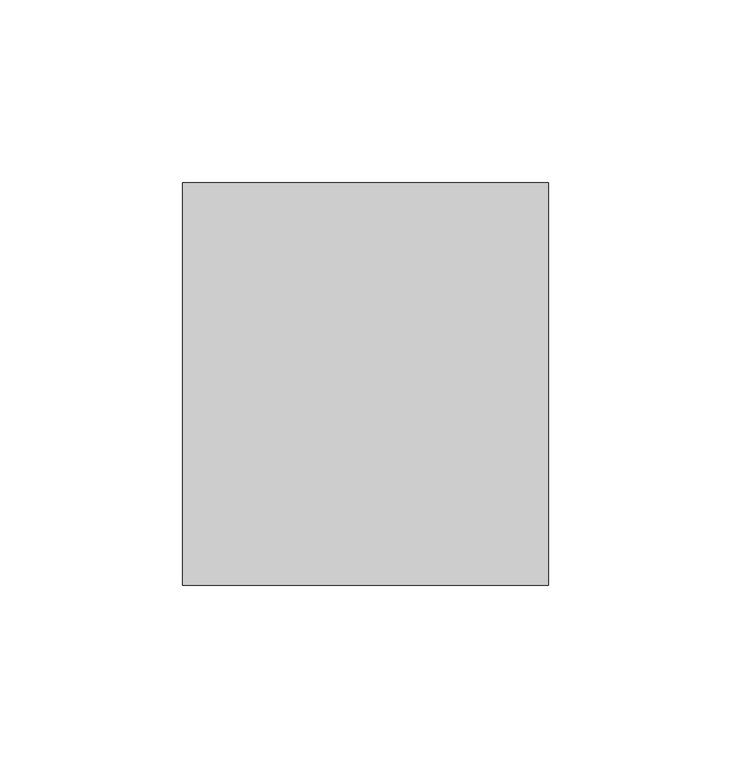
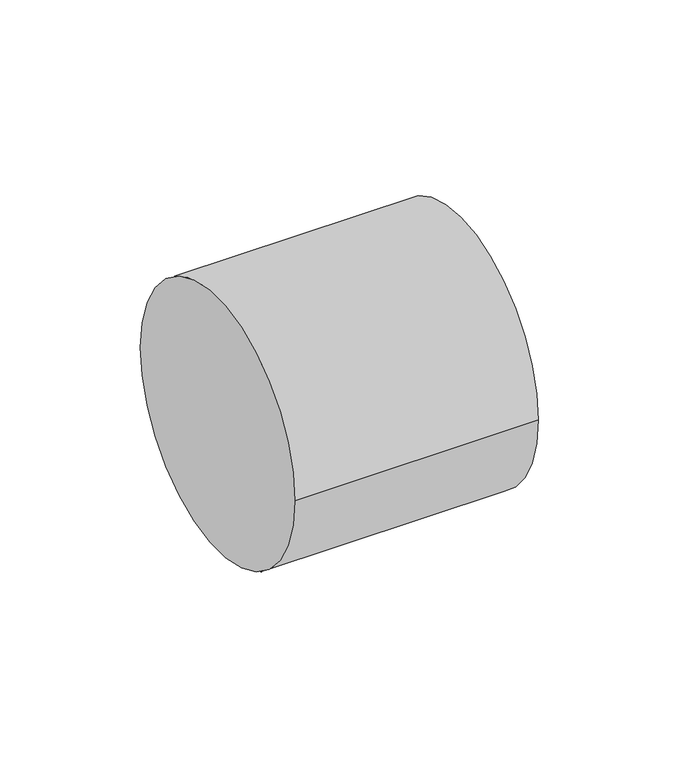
"""IFC4 building model written with IfcOpenShell, lengths in millimetres: pipe segment geometry, UN_PIF_PP pipe adapter_SH_PipeLife : var. DN/OD (max. ø125, nested)."""

import ifcopenshell
import ifcopenshell.guid

model = None  # the IFC model being written
_history = None  # IfcOwnerHistory: only IFC2X3 demands one
_inside = {}  # id of a spatial element -> (the spatial element, [elements in it])
_under = {}  # id of a project, library or spatial element -> (it, [spatial elements below it])
_declared = {}  # id of a project -> (the project, [libraries it declares])
_typed = {}  # id of a type object -> (the type object, [elements of that type])
_made_of = {}  # id of a material, layer set ... -> (it, [elements and type objects made of it])


def new_model(schema):
    """Start an empty IFC model of exactly this schema.

    Asked for "IFC4X3", IfcOpenShell would pick the latest addendum, in which some entities
    have other attributes; the version numbers below select the first issue.
    IFC2X3 requires an IfcOwnerHistory on every rooted entity: one is made here for all.
    """
    global model, _history
    if schema == "IFC4X3":
        model = ifcopenshell.file(schema_version=(4, 3, 0, 0))
    else:
        model = ifcopenshell.file(schema=schema)
    _inside.clear()
    _under.clear()
    _declared.clear()
    _typed.clear()
    _made_of.clear()
    _history = None
    if model.schema == "IFC2X3":
        org = make("IfcOrganization", Name="unknown")
        user = make(
            "IfcPersonAndOrganization",
            ThePerson=make("IfcPerson", FamilyName="unknown"),
            TheOrganization=org,
        )
        app = make(
            "IfcApplication",
            ApplicationDeveloper=org,
            Version="unknown",
            ApplicationFullName="unknown",
            ApplicationIdentifier="unknown",
        )
        _history = make(
            "IfcOwnerHistory",
            OwningUser=user,
            OwningApplication=app,
            ChangeAction="ADDED",
            CreationDate=0,
        )
    return model


def make(cls, **values):
    """One entity of the class cls with the attributes given. An attribute that is None is left unset."""
    return model.create_entity(
        cls, **{name: value for name, value in values.items() if value is not None}
    )


def rooted(cls, **values):
    """An entity with a GlobalId (a new one), such as an element, a storey or a relation."""
    return make(cls, GlobalId=ifcopenshell.guid.new(), OwnerHistory=_history, **values)


def si_unit(unit_type, name, prefix=None):
    """IfcSIUnit, for example si_unit("LENGTHUNIT", "METRE", prefix="MILLI")."""
    return make("IfcSIUnit", UnitType=unit_type, Prefix=prefix, Name=name)


def assignment(units):
    """IfcUnitAssignment: the units of a project."""
    return None if units is None else make("IfcUnitAssignment", Units=units)


def point(xyz):
    """IfcCartesianPoint."""
    return None if xyz is None else make("IfcCartesianPoint", Coordinates=xyz)


def direction(xyz):
    """IfcDirection."""
    return None if xyz is None else make("IfcDirection", DirectionRatios=xyz)


def frame(location, z_axis=None, x_axis=None):
    """IfcAxis2Placement3D, a coordinate frame: its origin and axes. An axis left out is left unset."""
    return make(
        "IfcAxis2Placement3D",
        Location=point(location),
        Axis=direction(z_axis),
        RefDirection=direction(x_axis),
    )


def frame_2d(location, x_axis=None):
    """IfcAxis2Placement2D, a coordinate frame in the plane: its origin and x axis."""
    return make(
        "IfcAxis2Placement2D", Location=point(location), RefDirection=direction(x_axis)
    )


def origin():
    """The frame at (0, 0, 0) with its axes left unset."""
    return frame((0.0, 0.0, 0.0))


def origin_2d():
    """The frame at (0, 0) in the plane with its x axis left unset."""
    return frame_2d((0.0, 0.0))


def place(relative_to, where):
    """IfcLocalPlacement: puts the frame where relative to a parent placement (None: the world)."""
    return make(
        "IfcLocalPlacement", PlacementRelTo=relative_to, RelativePlacement=where
    )


def context(
    kind, dimensions, precision=None, world=None, true_north=None, identifier=None
):
    """IfcGeometricRepresentationContext, for example the 3D "Model" context."""
    return make(
        "IfcGeometricRepresentationContext",
        ContextIdentifier=identifier,
        ContextType=kind,
        CoordinateSpaceDimension=dimensions,
        Precision=precision,
        WorldCoordinateSystem=world,
        TrueNorth=true_north,
    )


def project(units=None, contexts=None):
    """IfcProject with its units and contexts."""
    return rooted(
        "IfcProject",
        Name="project",
        RepresentationContexts=contexts,
        UnitsInContext=assignment(units),
    )


def spatial(cls, under=None, at=None, **own):
    """A site, building, storey or space (cls), placed at a placement, below another one or the project."""
    s = rooted(cls, ObjectPlacement=at, **own)
    if under is not None:
        _under.setdefault(under.id(), (under, []))[1].append(s)
    return s


def circle_curve(where, radius):
    """IfcCircle in the frame where."""
    return make("IfcCircle", Position=where, Radius=radius)


def trimmed(basis, trim1, trim2, sense, master):
    """IfcTrimmedCurve: the piece of a basis curve between two trims."""
    return make(
        "IfcTrimmedCurve",
        BasisCurve=basis,
        Trim1=trim1,
        Trim2=trim2,
        SenseAgreement=sense,
        MasterRepresentation=master,
    )


def segment(curve, same_sense, transition):
    """IfcCompositeCurveSegment."""
    return make(
        "IfcCompositeCurveSegment",
        Transition=transition,
        SameSense=same_sense,
        ParentCurve=curve,
    )


def composite_curve(segments, self_intersect=None):
    """IfcCompositeCurve: segments joined end to end."""
    return make("IfcCompositeCurve", Segments=segments, SelfIntersect=self_intersect)


def outline(outer, holes=None, kind="AREA"):
    """IfcArbitraryClosedProfileDef: a profile drawn as a closed curve; with holes, ...WithVoids."""
    if holes is None:
        return make("IfcArbitraryClosedProfileDef", ProfileType=kind, OuterCurve=outer)
    return make(
        "IfcArbitraryProfileDefWithVoids",
        ProfileType=kind,
        OuterCurve=outer,
        InnerCurves=holes,
    )


def extrude(swept, where, along, depth):
    """IfcExtrudedAreaSolid: the profile swept, set in the frame where, extruded along a direction by depth."""
    return make(
        "IfcExtrudedAreaSolid",
        SweptArea=swept,
        Position=where,
        ExtrudedDirection=direction(along),
        Depth=depth,
    )


def shape(context_of_items, identifier, shape_type, items):
    """IfcShapeRepresentation: the items that make up one representation, for example the "Body"."""
    return make(
        "IfcShapeRepresentation",
        ContextOfItems=context_of_items,
        RepresentationIdentifier=identifier,
        RepresentationType=shape_type,
        Items=items,
    )


def source(mapping_origin, context_of_items, identifier, shape_type, items):
    """IfcRepresentationMap: a shape defined once, which mapped items show again and again."""
    return make(
        "IfcRepresentationMap",
        MappingOrigin=mapping_origin,
        MappedRepresentation=shape(context_of_items, identifier, shape_type, items),
    )


def transform(
    local_origin,
    x_axis=None,
    y_axis=None,
    z_axis=None,
    scale=None,
    scale2=None,
    scale3=None,
    uniform=True,
):
    """IfcCartesianTransformationOperator3D, or its non-uniform kind. x_axis, y_axis, z_axis: its Axis1, 2, 3."""
    if uniform:
        return make(
            "IfcCartesianTransformationOperator3D",
            Axis1=direction(x_axis),
            Axis2=direction(y_axis),
            LocalOrigin=point(local_origin),
            Scale=scale,
            Axis3=direction(z_axis),
        )
    return make(
        "IfcCartesianTransformationOperator3DnonUniform",
        Axis1=direction(x_axis),
        Axis2=direction(y_axis),
        LocalOrigin=point(local_origin),
        Scale=scale,
        Axis3=direction(z_axis),
        Scale2=scale2,
        Scale3=scale3,
    )


def mapped(mapping_source, mapping_target):
    """IfcMappedItem: shows the shape of a source again, moved by a transform."""
    return make(
        "IfcMappedItem", MappingSource=mapping_source, MappingTarget=mapping_target
    )


def made_of(thing, what):
    """Note that an element or type object is made of a material, layer set ...; save() writes the relation."""
    if what is not None:
        _made_of.setdefault(what.id(), (what, []))[1].append(thing)
    return thing


def element(
    cls,
    number,
    at=None,
    inside=None,
    cuts=None,
    type_object=None,
    material=None,
    context=None,
    identifier="Body",
    shape_type=None,
    held_by="IfcProductDefinitionShape",
    body=None,
    shapes=None,
    **own,
):
    """One element of the class cls, such as IfcWall. Its Tag is "e" and its number.

    at: its placement. inside: the storey or other place that contains it. cuts: it is an
    opening in that element (IfcRelVoidsElement). A single representation is given by context,
    identifier, shape_type and body (its items); several are given by shapes. held_by: the class
    of the entity that holds the representations. save() writes the other relations.
    """
    e = rooted(cls, Tag="e%d" % number, ObjectPlacement=at, **own)
    if body is not None:
        shapes = [shape(context, identifier, shape_type, body)]
    if shapes is not None:
        e.Representation = make(held_by, Representations=shapes)
    if inside is not None:
        _inside.setdefault(inside.id(), (inside, []))[1].append(e)
    if cuts is not None:
        rooted(
            "IfcRelVoidsElement", RelatingBuildingElement=cuts, RelatedOpeningElement=e
        )
    if type_object is not None:
        _typed.setdefault(type_object.id(), (type_object, []))[1].append(e)
    return made_of(e, material)


def aggregate(whole, parts):
    """IfcRelAggregates: a whole, such as a stair, and the parts it consists of."""
    return rooted("IfcRelAggregates", RelatingObject=whole, RelatedObjects=parts)


def save(model, path):
    """Write the relations noted so far, then the file.

    IfcRelAggregates (storeys below a building ...), IfcRelContainedInSpatialStructure (elements
    in a storey), IfcRelDefinesByType, IfcRelAssociatesMaterial and IfcRelDeclares: one each for
    every whole, place, type object, material and project.
    """
    for whole, parts in _under.values():
        aggregate(whole, parts)
    for where, things in _inside.values():
        rooted(
            "IfcRelContainedInSpatialStructure",
            RelatedElements=things,
            RelatingStructure=where,
        )
    for kind, things in _typed.values():
        rooted("IfcRelDefinesByType", RelatedObjects=things, RelatingType=kind)
    for what, things in _made_of.values():
        rooted("IfcRelAssociatesMaterial", RelatedObjects=things, RelatingMaterial=what)
    for by, libraries in _declared.values():
        rooted("IfcRelDeclares", RelatingContext=by, RelatedDefinitions=libraries)
    model.write(path)


def pipe_segment_e604f89e(model_context):
    return source(origin(), model_context, "Body", "SweptSolid", [
        extrude(outline(composite_curve([segment(trimmed(circle_curve(origin_2d(), 55.0), [point((-55.0, 0.0))], [point((55.0, 0.0))], False, "CARTESIAN"), True, "CONTINUOUS"), segment(trimmed(circle_curve(origin_2d(), 55.0), [point((55.0, 0.0))], [point((-55.0, 0.0))], False, "CARTESIAN"), True, "CONTINUOUS")], self_intersect=False)), frame((-50.0, 0.0, 0.0), z_axis=(1.0, 0.0, 0.0), x_axis=(0.0, 1.0, 0.0)), (0.0, 0.0, 1.0), 100.0),
    ])


if __name__ == "__main__":
    model = new_model("IFC4")
    model_context = context("Model", 3, world=origin())
    ifc_project = project(units=[si_unit("LENGTHUNIT", "METRE", prefix="MILLI")], contexts=[model_context])
    site = spatial("IfcSite", under=ifc_project)
    building = spatial("IfcBuilding", under=site)
    placement = place(None, origin())
    pipe_segment_shape = pipe_segment_e604f89e(model_context)
    element("IfcPipeSegment", 1, ObjectType="UN_PIF_PP pipe adapter_SH_PipeLife : var. DN/OD (max. ø125, nested)", at=placement, inside=building, context=model_context, shape_type="MappedRepresentation", body=[
        mapped(pipe_segment_shape, transform((0.0, 0.0, 0.0), x_axis=(1.0, 0.0, 0.0), y_axis=(0.0, 1.0, 0.0), z_axis=(0.0, 0.0, 1.0))),
    ])
    save(model, "model.ifc")
